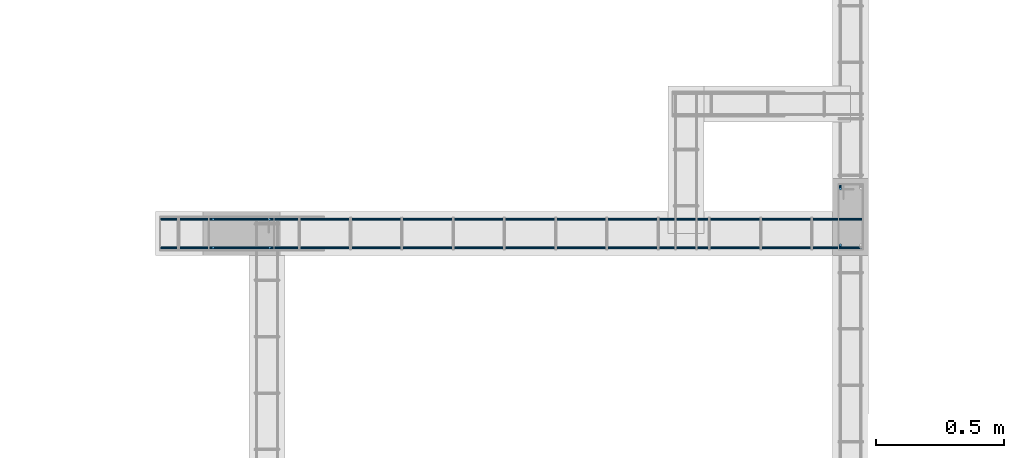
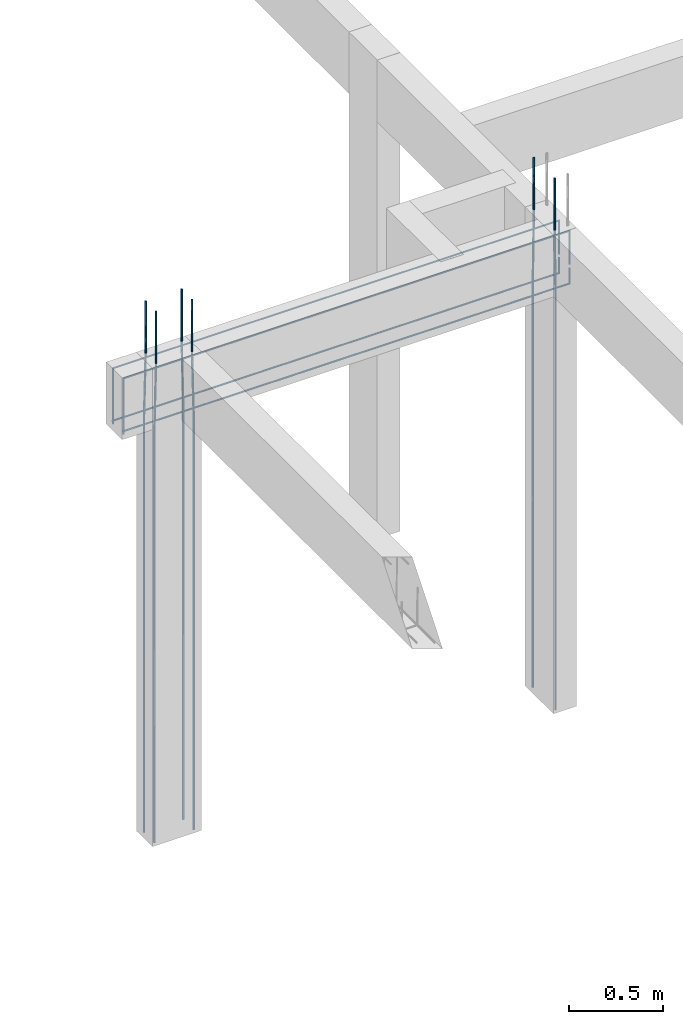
# One storey, part 58 of 236: 10 reinforcing bars.
"""IFC4 building model written with IfcOpenShell, lengths in centimetres."""

from ifc_helpers import new_model, entity, si_unit, derived_unit, frame, origin_with_axes, place, context, project, spatial, element, save


model = new_model("IFC4")

# Units and contexts
model_context = context("Model", 3, precision=1e-05, world=origin_with_axes(), identifier="Body")
ifc_project = project(units=[si_unit("LENGTHUNIT", "METRE", prefix="CENTI"), si_unit("VOLUMEUNIT", "CUBIC_METRE"), si_unit("AREAUNIT", "SQUARE_METRE"), si_unit("POWERUNIT", "WATT"), si_unit("LUMINOUSFLUXUNIT", "LUMEN"), si_unit("ELECTRICCURRENTUNIT", "AMPERE"), si_unit("PRESSUREUNIT", "PASCAL", prefix="KILO"), si_unit("MASSUNIT", "GRAM", prefix="KILO"), si_unit("PLANEANGLEUNIT", "RADIAN"), derived_unit("VOLUMETRICFLOWRATEUNIT", [(si_unit("LENGTHUNIT", "METRE"), 3), (si_unit("TIMEUNIT", "SECOND"), -1)])], contexts=[model_context])

# Site, building, storey
site_placement = place(None, frame((-4000.0, 0.0, 0.0), z_axis=(0.0, 0.0, 1.0), x_axis=(1.0, 0.0, 0.0)))
site = spatial("IfcSite", under=ifc_project, at=site_placement, Name="PADRÃO")
building_placement = place(site_placement, frame((0.0, 0.0, -14.0)))
building = spatial("IfcBuilding", under=site, at=building_placement, Name="CRECHE PRÉ-ESCOLA TIPO 2")
placement_1 = place(building_placement, origin_with_axes())
placement_2 = place(placement_1, frame((0.0, 0.0, 30.0), z_axis=(0.0, 0.0, 1.0), x_axis=(1.0, 0.0, 0.0)))
storey_placement = place(placement_2, frame((0.0, 0.0, 310.0), z_axis=(0.0, 0.0, 1.0), x_axis=(1.0, 0.0, 0.0)))
storey = spatial("IfcBuildingStorey", under=building, at=storey_placement, Name="TERREO", CompositionType="ELEMENT", Elevation=326.0)

# Reinforcing bars
for number, where, z_axis, x_axis, name in (
    (1, (277.5, 1809.5, 33.3573001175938), (0.0, 0.0, 1.0), (1.0, 0.0, 0.0), "P94 - Longitudinal"),
    (2, (277.5, 1820.5, 33.3573001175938), (0.0, 0.0, 1.0), (1.0, 0.0, 0.0), "P94 - Longitudinal"),
):
    element("IfcReinforcingBar", number, at=place(storey_placement, frame(where, z_axis=z_axis, x_axis=x_axis)), inside=storey, Name=name, BarLength=0.0, CrossSectionArea=7.853981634e-05, NominalDiameter=1.0, PredefinedType="MAIN", context=model_context, shape_type="AdvancedSweptSolid", body=[
        entity("IfcSweptDiskSolid", entity("IfcCompositeCurve", [entity("IfcCompositeCurveSegment", "CONTINUOUS", True, entity("IfcPolyline", [entity("IfcCartesianPoint", [0.5, 0.0, -343.357300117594]), entity("IfcCartesianPoint", [0.5, 0.0, -73.3573001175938])])), entity("IfcCompositeCurveSegment", "CONTINUOUS", True, entity("IfcPolyline", [entity("IfcCartesianPoint", [0.5, 0.0, -73.3573001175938]), entity("IfcCartesianPoint", [-0.5, 0.0, -33.3573001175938])])), entity("IfcCompositeCurveSegment", "CONTINUOUS", True, entity("IfcPolyline", [entity("IfcCartesianPoint", [-0.5, 0.0, -33.3573001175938]), entity("IfcCartesianPoint", [-0.5, 0.0, 0.0])]))], False), 0.5),
    ])
for number, where, z_axis, x_axis, name in (
    (3, (254.5, 1809.5, 33.3573001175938), (0.0, 0.0, 1.0), (1.0, 0.0, 0.0), "P94 - Longitudinal"),
    (4, (254.5, 1820.5, 33.3573001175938), (0.0, 0.0, 1.0), (1.0, 0.0, 0.0), "P94 - Longitudinal"),
):
    element("IfcReinforcingBar", number, at=place(storey_placement, frame(where, z_axis=z_axis, x_axis=x_axis)), inside=storey, Name=name, BarLength=0.0, CrossSectionArea=7.853981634e-05, NominalDiameter=1.0, PredefinedType="MAIN", context=model_context, shape_type="AdvancedSweptSolid", body=[
        entity("IfcSweptDiskSolid", entity("IfcCompositeCurve", [entity("IfcCompositeCurveSegment", "CONTINUOUS", True, entity("IfcPolyline", [entity("IfcCartesianPoint", [-0.5, 0.0, -343.357300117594]), entity("IfcCartesianPoint", [-0.5, 0.0, -73.3573001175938])])), entity("IfcCompositeCurveSegment", "CONTINUOUS", True, entity("IfcPolyline", [entity("IfcCartesianPoint", [-0.5, 0.0, -73.3573001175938]), entity("IfcCartesianPoint", [0.5, 0.0, -33.3573001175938])])), entity("IfcCompositeCurveSegment", "CONTINUOUS", True, entity("IfcPolyline", [entity("IfcCartesianPoint", [0.5, 0.0, -33.3573001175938]), entity("IfcCartesianPoint", [0.5, 0.0, 0.0])]))], False), 0.5),
    ])
reinforcing_bar_1_placement = place(storey_placement, frame((499.69, 1833.0, 33.3573001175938), z_axis=(0.0, 0.0, 1.0), x_axis=(1.0, 0.0, 0.0)))
element("IfcReinforcingBar", 5, at=reinforcing_bar_1_placement, inside=storey, Name="P95 - Longitudinal", BarLength=0.0, CrossSectionArea=7.853981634e-05, NominalDiameter=1.0, PredefinedType="MAIN", context=model_context, shape_type="AdvancedSweptSolid", body=[
    entity("IfcSweptDiskSolid", entity("IfcCompositeCurve", [entity("IfcCompositeCurveSegment", "CONTINUOUS", True, entity("IfcPolyline", [entity("IfcCartesianPoint", [0.0, 0.5, -343.357300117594]), entity("IfcCartesianPoint", [0.0, 0.5, -73.3573001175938])])), entity("IfcCompositeCurveSegment", "CONTINUOUS", True, entity("IfcPolyline", [entity("IfcCartesianPoint", [0.0, 0.5, -73.3573001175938]), entity("IfcCartesianPoint", [0.0, -0.5, -33.3573001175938])])), entity("IfcCompositeCurveSegment", "CONTINUOUS", True, entity("IfcPolyline", [entity("IfcCartesianPoint", [0.0, -0.5, -33.3573001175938]), entity("IfcCartesianPoint", [0.0, -0.5, 0.0])]))], False), 0.5),
])
reinforcing_bar_2_placement = place(storey_placement, frame((499.69, 1810.0, 33.3573001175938), z_axis=(0.0, 0.0, 1.0), x_axis=(1.0, 0.0, 0.0)))
element("IfcReinforcingBar", 6, at=reinforcing_bar_2_placement, inside=storey, Name="P95 - Longitudinal", BarLength=0.0, CrossSectionArea=7.853981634e-05, NominalDiameter=1.0, PredefinedType="MAIN", context=model_context, shape_type="AdvancedSweptSolid", body=[
    entity("IfcSweptDiskSolid", entity("IfcCompositeCurve", [entity("IfcCompositeCurveSegment", "CONTINUOUS", True, entity("IfcPolyline", [entity("IfcCartesianPoint", [0.0, -0.5, -343.357300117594]), entity("IfcCartesianPoint", [0.0, -0.5, -73.3573001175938])])), entity("IfcCompositeCurveSegment", "CONTINUOUS", True, entity("IfcPolyline", [entity("IfcCartesianPoint", [0.0, -0.5, -73.3573001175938]), entity("IfcCartesianPoint", [0.0, 0.5, -33.3573001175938])])), entity("IfcCompositeCurveSegment", "CONTINUOUS", True, entity("IfcPolyline", [entity("IfcCartesianPoint", [0.0, 0.5, -33.3573001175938]), entity("IfcCartesianPoint", [0.0, 0.5, 0.0])]))], False), 0.5),
])
for number, where, z_axis, x_axis, name in (
    (7, (371.5968751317, 1809.4, -27.1), (0.0, 0.0, 1.0), (1.0, 0.0, 0.0), "V236 - Longitudinal inferior"),
    (8, (371.5968751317, 1820.6, -27.1), (0.0, 0.0, 1.0), (1.0, 0.0, 0.0), "V236 - Longitudinal inferior"),
):
    element("IfcReinforcingBar", number, at=place(storey_placement, frame(where, z_axis=z_axis, x_axis=x_axis)), inside=storey, Name=name, BarLength=0.0, CrossSectionArea=5.0265482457e-05, NominalDiameter=0.8, PredefinedType="MAIN", context=model_context, shape_type="AdvancedSweptSolid", body=[
        entity("IfcSweptDiskSolid", entity("IfcCompositeCurve", [entity("IfcCompositeCurveSegment", "CONTINUOUS", True, entity("IfcPolyline", [entity("IfcCartesianPoint", [-137.0968751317, 0.0, -10.0]), entity("IfcCartesianPoint", [136.6931248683, 0.0, -10.0])])), entity("IfcCompositeCurveSegment", "CONTINUOUS", True, entity("IfcPolyline", [entity("IfcCartesianPoint", [136.6931248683, 0.0, -10.0]), entity("IfcCartesianPoint", [136.6931248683, 0.0, 0.0])]))], False), 0.4),
    ])
for number, where, z_axis, x_axis, name in (
    (9, (371.595, 1820.5, -2.49531217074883), (0.0, 0.0, 1.0), (1.0, 0.0, 0.0), "V236 - Longitudinal superior"),
    (10, (371.595, 1809.5, -2.49531217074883), (0.0, 0.0, 1.0), (1.0, 0.0, 0.0), "V236 - Longitudinal superior"),
):
    element("IfcReinforcingBar", number, at=place(storey_placement, frame(where, z_axis=z_axis, x_axis=x_axis)), inside=storey, Name=name, BarLength=0.0, CrossSectionArea=7.853981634e-05, NominalDiameter=1.0, PredefinedType="MAIN", context=model_context, shape_type="AdvancedSweptSolid", body=[
        entity("IfcSweptDiskSolid", entity("IfcCompositeCurve", [entity("IfcCompositeCurveSegment", "CONTINUOUS", True, entity("IfcPolyline", [entity("IfcCartesianPoint", [-136.595, 0.0, -36.5046878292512]), entity("IfcCartesianPoint", [-136.595, 0.0, -0.504687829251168])])), entity("IfcCompositeCurveSegment", "CONTINUOUS", True, entity("IfcPolyline", [entity("IfcCartesianPoint", [-136.595, 0.0, -0.504687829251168]), entity("IfcCartesianPoint", [136.595, 0.0, -0.504687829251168])])), entity("IfcCompositeCurveSegment", "CONTINUOUS", True, entity("IfcPolyline", [entity("IfcCartesianPoint", [136.595, 0.0, -0.504687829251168]), entity("IfcCartesianPoint", [136.595, 0.0, -22.165322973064])]))], False), 0.5),
    ])

save(model, "model.ifc")
